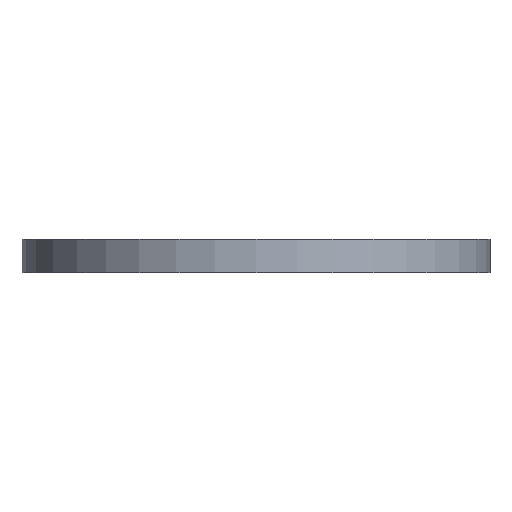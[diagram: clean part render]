
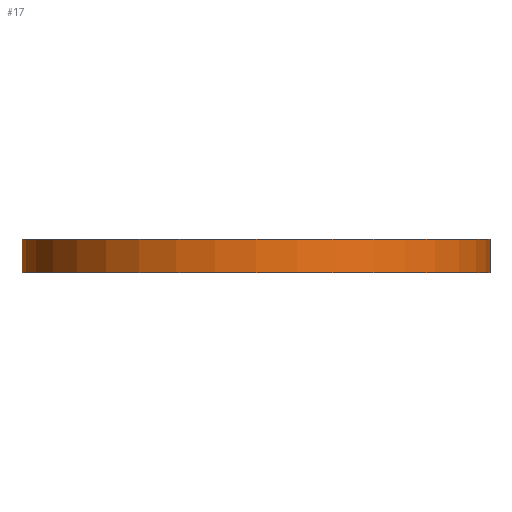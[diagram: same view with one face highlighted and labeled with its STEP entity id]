
A CAD part, front view. The second image highlights one B-rep face of the part: STEP entity #17.
In plain terms, the highlighted cylindrical face has radius 14 mm (diameter 28 mm), a full revolution.
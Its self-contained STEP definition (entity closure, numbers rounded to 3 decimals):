
#17 = ADVANCED_FACE('',(#18),#31,.T.);
#18 = FACE_BOUND('',#19,.T.);
#19 = EDGE_LOOP('',(#20,#54,#77,#104));
#20 = ORIENTED_EDGE('',*,*,#21,.F.);
#21 = EDGE_CURVE('',#22,#22,#24,.T.);
#22 = VERTEX_POINT('',#23);
#23 = CARTESIAN_POINT('',(14.,0.,2.));
#24 = SURFACE_CURVE('',#25,(#30,#42),.PCURVE_S1.);
#25 = CIRCLE('',#26,14.);
#26 = AXIS2_PLACEMENT_3D('',#27,#28,#29);
#27 = CARTESIAN_POINT('',(0.,0.,2.));
#28 = DIRECTION('',(0.,0.,1.));
#29 = DIRECTION('',(1.,0.,-0.));
#30 = PCURVE('',#31,#36);
#31 = CYLINDRICAL_SURFACE('',#32,14.);
#32 = AXIS2_PLACEMENT_3D('',#33,#34,#35);
#33 = CARTESIAN_POINT('',(0.,0.,0.));
#34 = DIRECTION('',(0.,0.,1.));
#35 = DIRECTION('',(1.,0.,-0.));
#36 = DEFINITIONAL_REPRESENTATION('',(#37),#41);
#37 = LINE('',#38,#39);
#38 = CARTESIAN_POINT('',(0.,2.));
#39 = VECTOR('',#40,1.);
#40 = DIRECTION('',(1.,0.));
#41 = ( GEOMETRIC_REPRESENTATION_CONTEXT(2) 
PARAMETRIC_REPRESENTATION_CONTEXT() REPRESENTATION_CONTEXT('2D SPACE',''
  ) );
#42 = PCURVE('',#43,#48);
#43 = PLANE('',#44);
#44 = AXIS2_PLACEMENT_3D('',#45,#46,#47);
#45 = CARTESIAN_POINT('',(0.,0.,2.));
#46 = DIRECTION('',(0.,0.,1.));
#47 = DIRECTION('',(1.,0.,-0.));
#48 = DEFINITIONAL_REPRESENTATION('',(#49),#53);
#49 = CIRCLE('',#50,14.);
#50 = AXIS2_PLACEMENT_2D('',#51,#52);
#51 = CARTESIAN_POINT('',(0.,0.));
#52 = DIRECTION('',(1.,0.));
#53 = ( GEOMETRIC_REPRESENTATION_CONTEXT(2) 
PARAMETRIC_REPRESENTATION_CONTEXT() REPRESENTATION_CONTEXT('2D SPACE',''
  ) );
#54 = ORIENTED_EDGE('',*,*,#55,.F.);
#55 = EDGE_CURVE('',#56,#22,#58,.T.);
#56 = VERTEX_POINT('',#57);
#57 = CARTESIAN_POINT('',(14.,0.,0.));
#58 = SEAM_CURVE('',#59,(#63,#70),.PCURVE_S1.);
#59 = LINE('',#60,#61);
#60 = CARTESIAN_POINT('',(14.,0.,0.));
#61 = VECTOR('',#62,1.);
#62 = DIRECTION('',(0.,0.,1.));
#63 = PCURVE('',#31,#64);
#64 = DEFINITIONAL_REPRESENTATION('',(#65),#69);
#65 = LINE('',#66,#67);
#66 = CARTESIAN_POINT('',(6.283,-0.));
#67 = VECTOR('',#68,1.);
#68 = DIRECTION('',(0.,1.));
#69 = ( GEOMETRIC_REPRESENTATION_CONTEXT(2) 
PARAMETRIC_REPRESENTATION_CONTEXT() REPRESENTATION_CONTEXT('2D SPACE',''
  ) );
#70 = PCURVE('',#31,#71);
#71 = DEFINITIONAL_REPRESENTATION('',(#72),#76);
#72 = LINE('',#73,#74);
#73 = CARTESIAN_POINT('',(0.,-0.));
#74 = VECTOR('',#75,1.);
#75 = DIRECTION('',(0.,1.));
#76 = ( GEOMETRIC_REPRESENTATION_CONTEXT(2) 
PARAMETRIC_REPRESENTATION_CONTEXT() REPRESENTATION_CONTEXT('2D SPACE',''
  ) );
#77 = ORIENTED_EDGE('',*,*,#78,.T.);
#78 = EDGE_CURVE('',#56,#56,#79,.T.);
#79 = SURFACE_CURVE('',#80,(#85,#92),.PCURVE_S1.);
#80 = CIRCLE('',#81,14.);
#81 = AXIS2_PLACEMENT_3D('',#82,#83,#84);
#82 = CARTESIAN_POINT('',(0.,0.,0.));
#83 = DIRECTION('',(0.,0.,1.));
#84 = DIRECTION('',(1.,0.,-0.));
#85 = PCURVE('',#31,#86);
#86 = DEFINITIONAL_REPRESENTATION('',(#87),#91);
#87 = LINE('',#88,#89);
#88 = CARTESIAN_POINT('',(0.,0.));
#89 = VECTOR('',#90,1.);
#90 = DIRECTION('',(1.,0.));
#91 = ( GEOMETRIC_REPRESENTATION_CONTEXT(2) 
PARAMETRIC_REPRESENTATION_CONTEXT() REPRESENTATION_CONTEXT('2D SPACE',''
  ) );
#92 = PCURVE('',#93,#98);
#93 = PLANE('',#94);
#94 = AXIS2_PLACEMENT_3D('',#95,#96,#97);
#95 = CARTESIAN_POINT('',(0.,0.,0.));
#96 = DIRECTION('',(0.,0.,1.));
#97 = DIRECTION('',(1.,0.,-0.));
#98 = DEFINITIONAL_REPRESENTATION('',(#99),#103);
#99 = CIRCLE('',#100,14.);
#100 = AXIS2_PLACEMENT_2D('',#101,#102);
#101 = CARTESIAN_POINT('',(0.,0.));
#102 = DIRECTION('',(1.,0.));
#103 = ( GEOMETRIC_REPRESENTATION_CONTEXT(2) 
PARAMETRIC_REPRESENTATION_CONTEXT() REPRESENTATION_CONTEXT('2D SPACE',''
  ) );
#104 = ORIENTED_EDGE('',*,*,#55,.T.);
